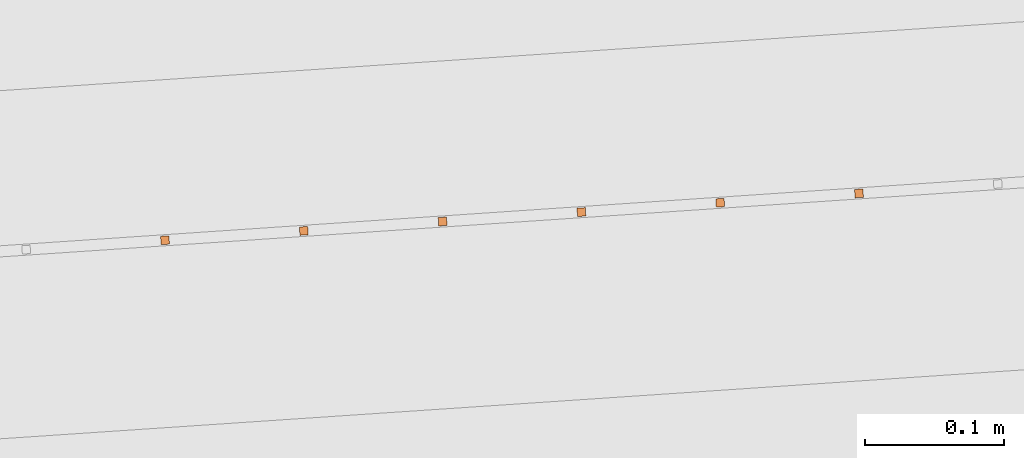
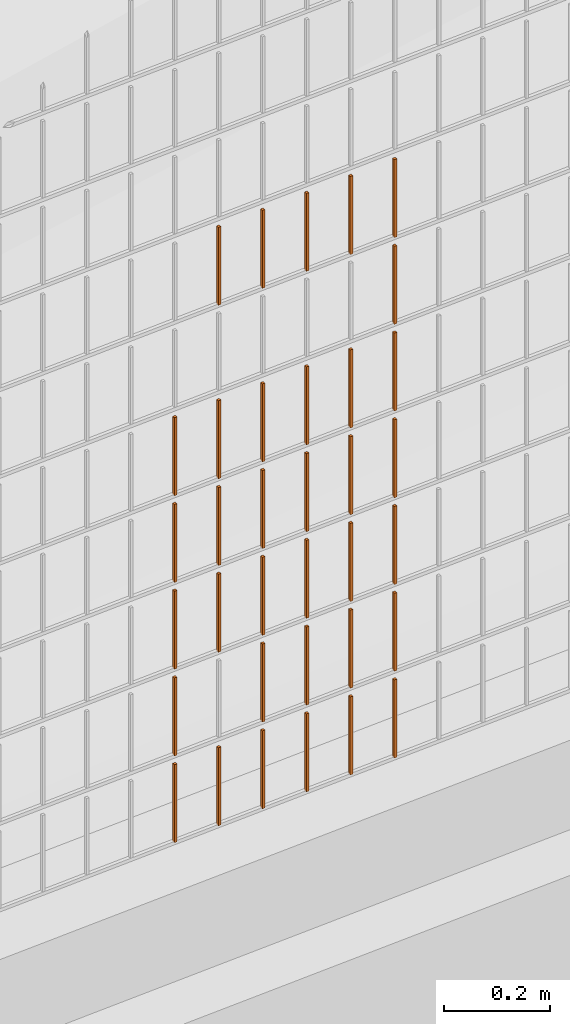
# One storey, part 106 of 1809: 35 proxies, 1 element without a shape of its own.
"""IFC2X3 building model written with IfcOpenShell, lengths in millimetres."""

from ifc_helpers import new_model, entity, si_unit, converted_unit, derived_unit, money_unit, direction, frame, origin_with_axes, place, context, subcontext, project, spatial, faceted_brep, source, transform, mapped, material, type_object, element, aggregate, save


model = new_model("IFC2X3")

# Units and contexts
model_context = context("Model", 3, precision=0.01, world=origin_with_axes(), true_north=direction((0.0, 1.0)))
body_context = subcontext(model_context, "Body", "Model", "MODEL_VIEW")
ifc_project = project(units=[si_unit("LENGTHUNIT", "METRE", prefix="MILLI"), si_unit("AREAUNIT", "SQUARE_METRE"), si_unit("VOLUMEUNIT", "CUBIC_METRE"), converted_unit("PLANEANGLEUNIT", "DEGREE", entity("IfcPlaneAngleMeasure", 0.0174532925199), si_unit("PLANEANGLEUNIT", "RADIAN"), dimensions=[0, 0, 0, 0, 0, 0, 0]), si_unit("SOLIDANGLEUNIT", "STERADIAN"), money_unit("EUR"), converted_unit("TIMEUNIT", "Year", entity("IfcTimeMeasure", 31556926.0), si_unit("TIMEUNIT", "SECOND"), dimensions=[0, 0, 1, 0, 0, 0, 0]), si_unit("MASSUNIT", "GRAM", prefix="KILO"), si_unit("THERMODYNAMICTEMPERATUREUNIT", "DEGREE_CELSIUS"), si_unit("LUMINOUSINTENSITYUNIT", "LUMEN"), si_unit("ENERGYUNIT", "JOULE", prefix="MEGA"), derived_unit("THERMALCONDUCTANCEUNIT", [(si_unit("POWERUNIT", "WATT"), 1), (si_unit("LENGTHUNIT", "METRE"), -1), (si_unit("THERMODYNAMICTEMPERATUREUNIT", "KELVIN"), -1)]), derived_unit("SPECIFICHEATCAPACITYUNIT", [(si_unit("ENERGYUNIT", "JOULE"), 1), (si_unit("MASSUNIT", "GRAM", prefix="KILO"), -1), (si_unit("THERMODYNAMICTEMPERATUREUNIT", "KELVIN"), -1)]), derived_unit("MASSDENSITYUNIT", [(si_unit("MASSUNIT", "GRAM", prefix="KILO"), 1), (si_unit("VOLUMEUNIT", "CUBIC_METRE"), -1)])], contexts=[model_context])

# Site, building, storey
site_placement = place(None, origin_with_axes())
site = spatial("IfcSite", under=ifc_project, at=site_placement, Name="Politse- ja Piirivalveameti ning Päästeameti ühishoone", CompositionType="ELEMENT")
building_placement = place(site_placement, origin_with_axes())
building = spatial("IfcBuilding", under=site, at=building_placement, Name="Politse- ja Piirivalveameti ning Päästeameti ühishoone", CompositionType="ELEMENT")
storey_placement = place(building_placement, origin_with_axes())
storey = spatial("IfcBuildingStorey", under=building, at=storey_placement, Name="Esimene korrus", CompositionType="ELEMENT", Elevation=0.0)

# Proxies
building_element_proxy_type_1 = type_object("IfcBuildingElementProxyType", Name="Railing Type", PredefinedType="NOTDEFINED")
proxy_1_placement = place(storey_placement, frame((89252.001212, -29183.4766571, 203.661247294), z_axis=(0.0, 0.0, 1.0), x_axis=(1.0, 0.0, 0.0)))
proxy_1 = element("IfcBuildingElementProxy", 1, at=proxy_1_placement, inside=storey, type_object=building_element_proxy_type_1, Name="PIIRDEAED")
ifc_material = material(Name="ET-03_Raud")
building_element_proxy_type_2 = type_object("IfcBuildingElementProxyType", Name="IfcBuildingElementProxy", PredefinedType="NOTDEFINED")
shared_shape_1 = source(origin_with_axes(), body_context, "Body", "Brep", [
    faceted_brep([(3.0, 3.0, -0.000752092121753), (-3.0, 3.0, -0.000752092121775), (-3.0, 3.0, 179.99926046), (3.0, 3.0, 179.99926046), (3.0, -3.0, 0.000752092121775), (-3.0, -3.0, 0.000752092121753), (-3.0, -3.0, 180.000764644), (3.0, -3.0, 180.000764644)], [[[0, 1, 2, 3]], [[0, 4, 5, 1]], [[1, 5, 6, 2]], [[3, 2, 6, 7]], [[4, 0, 3, 7]], [[5, 4, 7, 6]]]),
])
proxy_2_placement = place(proxy_1_placement, frame((-93912.6937901, -23641.2228134, 3.63707202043), z_axis=(0.0, 0.0, 1.0), x_axis=(1.0, 0.0, 0.0)))
proxy_2 = element("IfcBuildingElementProxy", 2, at=proxy_2_placement, type_object=building_element_proxy_type_2, material=ifc_material, Name="BALUSTER - 001", context=body_context, shape_type="MappedRepresentation", body=[
    mapped(shared_shape_1, transform((0.0, 0.0, 0.0), x_axis=(-0.0673926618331, 0.997726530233, 0.0), y_axis=(-0.997726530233, -0.0673926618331, 0.0), z_axis=(0.0, 0.0, 1.0))),
])
proxy_3_placement = place(proxy_1_placement, frame((-93912.6937901, -23641.2228134, 203.63707202), z_axis=(0.0, 0.0, 1.0), x_axis=(1.0, 0.0, 0.0)))
proxy_3 = element("IfcBuildingElementProxy", 3, at=proxy_3_placement, type_object=building_element_proxy_type_2, material=ifc_material, Name="BALUSTER - 001", context=body_context, shape_type="MappedRepresentation", body=[
    mapped(shared_shape_1, transform((0.0, 0.0, 0.0), x_axis=(-0.0673926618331, 0.997726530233, 0.0), y_axis=(-0.997726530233, -0.0673926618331, 0.0), z_axis=(0.0, 0.0, 1.0))),
])
shared_shape_2 = source(origin_with_axes(), body_context, "Body", "Brep", [
    faceted_brep([(3.0, 3.0, -0.000752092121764), (-3.0, 3.0, -0.000752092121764), (-3.0, 3.0, 179.99926046), (3.0, 3.0, 179.99926046), (3.0, -3.0, 0.000752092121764), (-3.0, -3.0, 0.000752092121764), (-3.0, -3.0, 180.000764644), (3.0, -3.0, 180.000764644)], [[[0, 1, 2, 3]], [[0, 4, 5, 1]], [[1, 5, 6, 2]], [[3, 2, 6, 7]], [[4, 0, 3, 7]], [[5, 4, 7, 6]]]),
])
proxy_4_placement = place(proxy_1_placement, frame((-94112.2390962, -23654.7013458, 3.58693254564), z_axis=(0.0, 0.0, 1.0), x_axis=(1.0, 0.0, 0.0)))
proxy_4 = element("IfcBuildingElementProxy", 4, at=proxy_4_placement, type_object=building_element_proxy_type_2, material=ifc_material, Name="BALUSTER - 001", context=body_context, shape_type="MappedRepresentation", body=[
    mapped(shared_shape_2, transform((0.0, 0.0, 0.0), x_axis=(-0.0673926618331, 0.997726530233, 0.0), y_axis=(-0.997726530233, -0.0673926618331, 0.0), z_axis=(0.0, 0.0, 1.0))),
])
shared_shape_3 = source(origin_with_axes(), body_context, "Body", "Brep", [
    faceted_brep([(3.0, 3.0, -0.000752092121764), (-3.0, 3.0, -0.000752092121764), (-3.0, 3.0, 179.99926046), (3.0, 3.0, 179.99926046), (3.0, -3.0, 0.000752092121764), (-3.0, -3.0, 0.000752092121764), (-3.0, -3.0, 180.000764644), (3.0, -3.0, 180.000764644)], [[[0, 1, 2, 3]], [[0, 4, 5, 1]], [[1, 5, 6, 2]], [[3, 2, 6, 7]], [[4, 0, 3, 7]], [[5, 4, 7, 6]]]),
])
proxy_5_placement = place(proxy_1_placement, frame((-94012.4664431, -23647.9620796, 3.61200228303), z_axis=(0.0, 0.0, 1.0), x_axis=(1.0, 0.0, 0.0)))
proxy_5 = element("IfcBuildingElementProxy", 5, at=proxy_5_placement, type_object=building_element_proxy_type_2, material=ifc_material, Name="BALUSTER - 001", context=body_context, shape_type="MappedRepresentation", body=[
    mapped(shared_shape_3, transform((0.0, 0.0, 0.0), x_axis=(-0.0673926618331, 0.997726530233, 0.0), y_axis=(-0.997726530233, -0.0673926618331, 0.0), z_axis=(0.0, 0.0, 1.0))),
])
shared_shape_4 = source(origin_with_axes(), body_context, "Body", "Brep", [
    faceted_brep([(3.0, 3.0, -0.000752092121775), (-3.0, 3.0, -0.000752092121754), (-3.0, 3.0, 179.99926046), (3.0, 3.0, 179.99926046), (3.0, -3.0, 0.000752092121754), (-3.0, -3.0, 0.000752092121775), (-3.0, -3.0, 180.000764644), (3.0, -3.0, 180.000764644)], [[[0, 1, 2, 3]], [[0, 4, 5, 1]], [[1, 5, 6, 2]], [[3, 2, 6, 7]], [[4, 0, 3, 7]], [[5, 4, 7, 6]]]),
])
proxy_6_placement = place(proxy_1_placement, frame((-93713.1484841, -23627.744281, 403.687211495), z_axis=(0.0, 0.0, 1.0), x_axis=(1.0, 0.0, 0.0)))
proxy_6 = element("IfcBuildingElementProxy", 6, at=proxy_6_placement, type_object=building_element_proxy_type_2, material=ifc_material, Name="BALUSTER - 001", context=body_context, shape_type="MappedRepresentation", body=[
    mapped(shared_shape_4, transform((0.0, 0.0, 0.0), x_axis=(-0.0673926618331, 0.997726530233, 0.0), y_axis=(-0.997726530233, -0.0673926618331, 0.0), z_axis=(0.0, 0.0, 1.0))),
])
proxy_7_placement = place(proxy_1_placement, frame((-93713.1484841, -23627.744281, 603.687211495), z_axis=(0.0, 0.0, 1.0), x_axis=(1.0, 0.0, 0.0)))
proxy_7 = element("IfcBuildingElementProxy", 7, at=proxy_7_placement, type_object=building_element_proxy_type_2, material=ifc_material, Name="BALUSTER - 001", context=body_context, shape_type="MappedRepresentation", body=[
    mapped(shared_shape_4, transform((0.0, 0.0, 0.0), x_axis=(-0.0673926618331, 0.997726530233, 0.0), y_axis=(-0.997726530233, -0.0673926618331, 0.0), z_axis=(0.0, 0.0, 1.0))),
])
shared_shape_5 = source(origin_with_axes(), body_context, "Body", "Brep", [
    faceted_brep([(3.0, 3.0, -0.000752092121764), (-3.0, 3.0, -0.000752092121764), (-3.0, 3.0, 179.99926046), (3.0, 3.0, 179.99926046), (3.0, -3.0, 0.000752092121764), (-3.0, -3.0, 0.000752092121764), (-3.0, -3.0, 180.000764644), (3.0, -3.0, 180.000764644)], [[[0, 1, 2, 3]], [[0, 4, 5, 1]], [[1, 5, 6, 2]], [[3, 2, 6, 7]], [[4, 0, 3, 7]], [[5, 4, 7, 6]]]),
])
proxy_8_placement = place(proxy_1_placement, frame((-94112.2390962, -23654.7013458, 203.586932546), z_axis=(0.0, 0.0, 1.0), x_axis=(1.0, 0.0, 0.0)))
proxy_8 = element("IfcBuildingElementProxy", 8, at=proxy_8_placement, type_object=building_element_proxy_type_2, material=ifc_material, Name="BALUSTER - 001", context=body_context, shape_type="MappedRepresentation", body=[
    mapped(shared_shape_5, transform((0.0, 0.0, 0.0), x_axis=(-0.0673926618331, 0.997726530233, 0.0), y_axis=(-0.997726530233, -0.0673926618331, 0.0), z_axis=(0.0, 0.0, 1.0))),
])
proxy_9_placement = place(proxy_1_placement, frame((-94012.4664431, -23647.9620796, 403.612002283), z_axis=(0.0, 0.0, 1.0), x_axis=(1.0, 0.0, 0.0)))
proxy_9 = element("IfcBuildingElementProxy", 9, at=proxy_9_placement, type_object=building_element_proxy_type_2, material=ifc_material, Name="BALUSTER - 001", context=body_context, shape_type="MappedRepresentation", body=[
    mapped(shared_shape_5, transform((0.0, 0.0, 0.0), x_axis=(-0.0673926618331, 0.997726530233, 0.0), y_axis=(-0.997726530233, -0.0673926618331, 0.0), z_axis=(0.0, 0.0, 1.0))),
])
proxy_10_placement = place(proxy_1_placement, frame((-94112.2390962, -23654.7013458, 403.586932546), z_axis=(0.0, 0.0, 1.0), x_axis=(1.0, 0.0, 0.0)))
proxy_10 = element("IfcBuildingElementProxy", 10, at=proxy_10_placement, type_object=building_element_proxy_type_2, material=ifc_material, Name="BALUSTER - 001", context=body_context, shape_type="MappedRepresentation", body=[
    mapped(shared_shape_5, transform((0.0, 0.0, 0.0), x_axis=(-0.0673926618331, 0.997726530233, 0.0), y_axis=(-0.997726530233, -0.0673926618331, 0.0), z_axis=(0.0, 0.0, 1.0))),
])
proxy_11_placement = place(proxy_1_placement, frame((-94012.4664431, -23647.9620796, 603.612002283), z_axis=(0.0, 0.0, 1.0), x_axis=(1.0, 0.0, 0.0)))
proxy_11 = element("IfcBuildingElementProxy", 11, at=proxy_11_placement, type_object=building_element_proxy_type_2, material=ifc_material, Name="BALUSTER - 001", context=body_context, shape_type="MappedRepresentation", body=[
    mapped(shared_shape_5, transform((0.0, 0.0, 0.0), x_axis=(-0.0673926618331, 0.997726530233, 0.0), y_axis=(-0.997726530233, -0.0673926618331, 0.0), z_axis=(0.0, 0.0, 1.0))),
])
proxy_12_placement = place(proxy_1_placement, frame((-94112.2390962, -23654.7013458, 603.586932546), z_axis=(0.0, 0.0, 1.0), x_axis=(1.0, 0.0, 0.0)))
proxy_12 = element("IfcBuildingElementProxy", 12, at=proxy_12_placement, type_object=building_element_proxy_type_2, material=ifc_material, Name="BALUSTER - 001", context=body_context, shape_type="MappedRepresentation", body=[
    mapped(shared_shape_5, transform((0.0, 0.0, 0.0), x_axis=(-0.0673926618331, 0.997726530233, 0.0), y_axis=(-0.997726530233, -0.0673926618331, 0.0), z_axis=(0.0, 0.0, 1.0))),
])
shared_shape_6 = source(origin_with_axes(), body_context, "Body", "Brep", [
    faceted_brep([(3.0, 3.0, -0.000752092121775), (-3.0, 3.0, -0.000752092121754), (-3.0, 3.0, 179.99926046), (3.0, 3.0, 179.99926046), (3.0, -3.0, 0.000752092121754), (-3.0, -3.0, 0.000752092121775), (-3.0, -3.0, 180.000764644), (3.0, -3.0, 180.000764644)], [[[0, 1, 2, 3]], [[0, 4, 5, 1]], [[1, 5, 6, 2]], [[3, 2, 6, 7]], [[4, 0, 3, 7]], [[5, 4, 7, 6]]]),
])
proxy_13_placement = place(proxy_1_placement, frame((-93713.1484841, -23627.744281, 203.687211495), z_axis=(0.0, 0.0, 1.0), x_axis=(1.0, 0.0, 0.0)))
proxy_13 = element("IfcBuildingElementProxy", 13, at=proxy_13_placement, type_object=building_element_proxy_type_2, material=ifc_material, Name="BALUSTER - 001", context=body_context, shape_type="MappedRepresentation", body=[
    mapped(shared_shape_6, transform((0.0, 0.0, 0.0), x_axis=(-0.0673926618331, 0.997726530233, 0.0), y_axis=(-0.997726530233, -0.0673926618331, 0.0), z_axis=(0.0, 0.0, 1.0))),
])
shared_shape_7 = source(origin_with_axes(), body_context, "Body", "Brep", [
    faceted_brep([(3.0, 3.0, -0.000752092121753), (-3.0, 3.0, -0.000752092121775), (-3.0, 3.0, 179.99926046), (3.0, 3.0, 179.99926046), (3.0, -3.0, 0.000752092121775), (-3.0, -3.0, 0.000752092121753), (-3.0, -3.0, 180.000764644), (3.0, -3.0, 180.000764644)], [[[0, 1, 2, 3]], [[0, 4, 5, 1]], [[1, 5, 6, 2]], [[3, 2, 6, 7]], [[4, 0, 3, 7]], [[5, 4, 7, 6]]]),
])
proxy_14_placement = place(proxy_1_placement, frame((-93912.6937901, -23641.2228134, 603.63707202), z_axis=(0.0, 0.0, 1.0), x_axis=(1.0, 0.0, 0.0)))
proxy_14 = element("IfcBuildingElementProxy", 14, at=proxy_14_placement, type_object=building_element_proxy_type_2, material=ifc_material, Name="BALUSTER - 001", context=body_context, shape_type="MappedRepresentation", body=[
    mapped(shared_shape_7, transform((0.0, 0.0, 0.0), x_axis=(-0.0673926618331, 0.997726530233, 0.0), y_axis=(-0.997726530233, -0.0673926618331, 0.0), z_axis=(0.0, 0.0, 1.0))),
])
shared_shape_8 = source(origin_with_axes(), body_context, "Body", "Brep", [
    faceted_brep([(3.0, 3.0, -0.000752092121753), (-3.0, 3.0, -0.000752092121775), (-3.0, 3.0, 179.99926046), (3.0, 3.0, 179.99926046), (3.0, -3.0, 0.000752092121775), (-3.0, -3.0, 0.000752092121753), (-3.0, -3.0, 180.000764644), (3.0, -3.0, 180.000764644)], [[[0, 1, 2, 3]], [[0, 4, 5, 1]], [[1, 5, 6, 2]], [[3, 2, 6, 7]], [[4, 0, 3, 7]], [[5, 4, 7, 6]]]),
])
proxy_15_placement = place(proxy_1_placement, frame((-93812.9211371, -23634.4835472, 803.662141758), z_axis=(0.0, 0.0, 1.0), x_axis=(1.0, 0.0, 0.0)))
proxy_15 = element("IfcBuildingElementProxy", 15, at=proxy_15_placement, type_object=building_element_proxy_type_2, material=ifc_material, Name="BALUSTER - 001", context=body_context, shape_type="MappedRepresentation", body=[
    mapped(shared_shape_8, transform((0.0, 0.0, 0.0), x_axis=(-0.0673926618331, 0.997726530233, 0.0), y_axis=(-0.997726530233, -0.0673926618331, 0.0), z_axis=(0.0, 0.0, 1.0))),
])
shared_shape_9 = source(origin_with_axes(), body_context, "Body", "Brep", [
    faceted_brep([(3.0, 3.0, -0.000752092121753), (-3.0, 3.0, -0.000752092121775), (-3.0, 3.0, 179.99926046), (3.0, 3.0, 179.99926046), (3.0, -3.0, 0.000752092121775), (-3.0, -3.0, 0.000752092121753), (-3.0, -3.0, 180.000764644), (3.0, -3.0, 180.000764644)], [[[0, 1, 2, 3]], [[0, 4, 5, 1]], [[1, 5, 6, 2]], [[3, 2, 6, 7]], [[4, 0, 3, 7]], [[5, 4, 7, 6]]]),
])
proxy_16_placement = place(proxy_1_placement, frame((-93812.9211371, -23634.4835472, 1203.66214176), z_axis=(0.0, 0.0, 1.0), x_axis=(1.0, 0.0, 0.0)))
proxy_16 = element("IfcBuildingElementProxy", 16, at=proxy_16_placement, type_object=building_element_proxy_type_2, material=ifc_material, Name="BALUSTER - 001", context=body_context, shape_type="MappedRepresentation", body=[
    mapped(shared_shape_9, transform((0.0, 0.0, 0.0), x_axis=(-0.0673926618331, 0.997726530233, 0.0), y_axis=(-0.997726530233, -0.0673926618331, 0.0), z_axis=(0.0, 0.0, 1.0))),
])
shared_shape_10 = source(origin_with_axes(), body_context, "Body", "Brep", [
    faceted_brep([(3.0, 3.0, -0.000752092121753), (-3.0, 3.0, -0.000752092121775), (-3.0, 3.0, 179.99926046), (3.0, 3.0, 179.99926046), (3.0, -3.0, 0.000752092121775), (-3.0, -3.0, 0.000752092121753), (-3.0, -3.0, 180.000764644), (3.0, -3.0, 180.000764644)], [[[0, 1, 2, 3]], [[0, 4, 5, 1]], [[1, 5, 6, 2]], [[3, 2, 6, 7]], [[4, 0, 3, 7]], [[5, 4, 7, 6]]]),
])
proxy_17_placement = place(proxy_1_placement, frame((-93812.9211371, -23634.4835472, 3.66214175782), z_axis=(0.0, 0.0, 1.0), x_axis=(1.0, 0.0, 0.0)))
proxy_17 = element("IfcBuildingElementProxy", 17, at=proxy_17_placement, type_object=building_element_proxy_type_2, material=ifc_material, Name="BALUSTER - 001", context=body_context, shape_type="MappedRepresentation", body=[
    mapped(shared_shape_10, transform((0.0, 0.0, 0.0), x_axis=(-0.0673926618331, 0.997726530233, 0.0), y_axis=(-0.997726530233, -0.0673926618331, 0.0), z_axis=(0.0, 0.0, 1.0))),
])
shared_shape_11 = source(origin_with_axes(), body_context, "Body", "Brep", [
    faceted_brep([(3.0, 3.0, -0.000752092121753), (-3.0, 3.0, -0.000752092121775), (-3.0, 3.0, 179.99926046), (3.0, 3.0, 179.99926046), (3.0, -3.0, 0.000752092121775), (-3.0, -3.0, 0.000752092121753), (-3.0, -3.0, 180.000764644), (3.0, -3.0, 180.000764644)], [[[0, 1, 2, 3]], [[0, 4, 5, 1]], [[1, 5, 6, 2]], [[3, 2, 6, 7]], [[4, 0, 3, 7]], [[5, 4, 7, 6]]]),
])
proxy_18_placement = place(proxy_1_placement, frame((-93812.9211371, -23634.4835472, 203.662141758), z_axis=(0.0, 0.0, 1.0), x_axis=(1.0, 0.0, 0.0)))
proxy_18 = element("IfcBuildingElementProxy", 18, at=proxy_18_placement, type_object=building_element_proxy_type_2, material=ifc_material, Name="BALUSTER - 001", context=body_context, shape_type="MappedRepresentation", body=[
    mapped(shared_shape_11, transform((0.0, 0.0, 0.0), x_axis=(-0.0673926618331, 0.997726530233, 0.0), y_axis=(-0.997726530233, -0.0673926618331, 0.0), z_axis=(0.0, 0.0, 1.0))),
])
shared_shape_12 = source(origin_with_axes(), body_context, "Body", "Brep", [
    faceted_brep([(3.0, 3.0, -0.000752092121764), (-3.0, 3.0, -0.000752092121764), (-3.0, 3.0, 179.99926046), (3.0, 3.0, 179.99926046), (3.0, -3.0, 0.000752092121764), (-3.0, -3.0, 0.000752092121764), (-3.0, -3.0, 180.000764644), (3.0, -3.0, 180.000764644)], [[[0, 1, 2, 3]], [[0, 4, 5, 1]], [[1, 5, 6, 2]], [[3, 2, 6, 7]], [[4, 0, 3, 7]], [[5, 4, 7, 6]]]),
])
proxy_19_placement = place(proxy_1_placement, frame((-93613.3758311, -23621.0050149, 3.7122812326), z_axis=(0.0, 0.0, 1.0), x_axis=(1.0, 0.0, 0.0)))
proxy_19 = element("IfcBuildingElementProxy", 19, at=proxy_19_placement, type_object=building_element_proxy_type_2, material=ifc_material, Name="BALUSTER - 001", context=body_context, shape_type="MappedRepresentation", body=[
    mapped(shared_shape_12, transform((0.0, 0.0, 0.0), x_axis=(-0.0673926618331, 0.997726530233, 0.0), y_axis=(-0.997726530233, -0.0673926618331, 0.0), z_axis=(0.0, 0.0, 1.0))),
])
shared_shape_13 = source(origin_with_axes(), body_context, "Body", "Brep", [
    faceted_brep([(3.0, 3.0, -0.000752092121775), (-3.0, 3.0, -0.000752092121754), (-3.0, 3.0, 179.99926046), (3.0, 3.0, 179.99926046), (3.0, -3.0, 0.000752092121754), (-3.0, -3.0, 0.000752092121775), (-3.0, -3.0, 180.000764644), (3.0, -3.0, 180.000764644)], [[[0, 1, 2, 3]], [[0, 4, 5, 1]], [[1, 5, 6, 2]], [[3, 2, 6, 7]], [[4, 0, 3, 7]], [[5, 4, 7, 6]]]),
])
proxy_20_placement = place(proxy_1_placement, frame((-93713.1484841, -23627.744281, 803.687211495), z_axis=(0.0, 0.0, 1.0), x_axis=(1.0, 0.0, 0.0)))
proxy_20 = element("IfcBuildingElementProxy", 20, at=proxy_20_placement, type_object=building_element_proxy_type_2, material=ifc_material, Name="BALUSTER - 001", context=body_context, shape_type="MappedRepresentation", body=[
    mapped(shared_shape_13, transform((0.0, 0.0, 0.0), x_axis=(-0.0673926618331, 0.997726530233, 0.0), y_axis=(-0.997726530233, -0.0673926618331, 0.0), z_axis=(0.0, 0.0, 1.0))),
])
proxy_21_placement = place(proxy_1_placement, frame((-93713.1484841, -23627.744281, 1203.6872115), z_axis=(0.0, 0.0, 1.0), x_axis=(1.0, 0.0, 0.0)))
proxy_21 = element("IfcBuildingElementProxy", 21, at=proxy_21_placement, type_object=building_element_proxy_type_2, material=ifc_material, Name="BALUSTER - 001", context=body_context, shape_type="MappedRepresentation", body=[
    mapped(shared_shape_13, transform((0.0, 0.0, 0.0), x_axis=(-0.0673926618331, 0.997726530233, 0.0), y_axis=(-0.997726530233, -0.0673926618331, 0.0), z_axis=(0.0, 0.0, 1.0))),
])
shared_shape_14 = source(origin_with_axes(), body_context, "Body", "Brep", [
    faceted_brep([(3.0, 3.0, -0.000752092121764), (-3.0, 3.0, -0.000752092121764), (-3.0, 3.0, 179.99926046), (3.0, 3.0, 179.99926046), (3.0, -3.0, 0.000752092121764), (-3.0, -3.0, 0.000752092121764), (-3.0, -3.0, 180.000764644), (3.0, -3.0, 180.000764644)], [[[0, 1, 2, 3]], [[0, 4, 5, 1]], [[1, 5, 6, 2]], [[3, 2, 6, 7]], [[4, 0, 3, 7]], [[5, 4, 7, 6]]]),
])
proxy_22_placement = place(proxy_1_placement, frame((-93613.3758311, -23621.0050149, 203.712281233), z_axis=(0.0, 0.0, 1.0), x_axis=(1.0, 0.0, 0.0)))
proxy_22 = element("IfcBuildingElementProxy", 22, at=proxy_22_placement, type_object=building_element_proxy_type_2, material=ifc_material, Name="BALUSTER - 001", context=body_context, shape_type="MappedRepresentation", body=[
    mapped(shared_shape_14, transform((0.0, 0.0, 0.0), x_axis=(-0.0673926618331, 0.997726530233, 0.0), y_axis=(-0.997726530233, -0.0673926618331, 0.0), z_axis=(0.0, 0.0, 1.0))),
])
proxy_23_placement = place(proxy_1_placement, frame((-93613.3758311, -23621.0050149, 403.712281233), z_axis=(0.0, 0.0, 1.0), x_axis=(1.0, 0.0, 0.0)))
proxy_23 = element("IfcBuildingElementProxy", 23, at=proxy_23_placement, type_object=building_element_proxy_type_2, material=ifc_material, Name="BALUSTER - 001", context=body_context, shape_type="MappedRepresentation", body=[
    mapped(shared_shape_14, transform((0.0, 0.0, 0.0), x_axis=(-0.0673926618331, 0.997726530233, 0.0), y_axis=(-0.997726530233, -0.0673926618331, 0.0), z_axis=(0.0, 0.0, 1.0))),
])
shared_shape_15 = source(origin_with_axes(), body_context, "Body", "Brep", [
    faceted_brep([(3.0, 3.0, -0.000752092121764), (-3.0, 3.0, -0.000752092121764), (-3.0, 3.0, 179.99926046), (3.0, 3.0, 179.99926046), (3.0, -3.0, 0.000752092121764), (-3.0, -3.0, 0.000752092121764), (-3.0, -3.0, 180.000764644), (3.0, -3.0, 180.000764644)], [[[0, 1, 2, 3]], [[0, 4, 5, 1]], [[1, 5, 6, 2]], [[3, 2, 6, 7]], [[4, 0, 3, 7]], [[5, 4, 7, 6]]]),
])
proxy_24_placement = place(proxy_1_placement, frame((-93613.3758311, -23621.0050149, 603.712281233), z_axis=(0.0, 0.0, 1.0), x_axis=(1.0, 0.0, 0.0)))
proxy_24 = element("IfcBuildingElementProxy", 24, at=proxy_24_placement, type_object=building_element_proxy_type_2, material=ifc_material, Name="BALUSTER - 001", context=body_context, shape_type="MappedRepresentation", body=[
    mapped(shared_shape_15, transform((0.0, 0.0, 0.0), x_axis=(-0.0673926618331, 0.997726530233, 0.0), y_axis=(-0.997726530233, -0.0673926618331, 0.0), z_axis=(0.0, 0.0, 1.0))),
])
shared_shape_16 = source(origin_with_axes(), body_context, "Body", "Brep", [
    faceted_brep([(3.0, 3.0, -0.000752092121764), (-3.0, 3.0, -0.000752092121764), (-3.0, 3.0, 179.99926046), (3.0, 3.0, 179.99926046), (3.0, -3.0, 0.000752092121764), (-3.0, -3.0, 0.000752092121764), (-3.0, -3.0, 180.000764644), (3.0, -3.0, 180.000764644)], [[[0, 1, 2, 3]], [[0, 4, 5, 1]], [[1, 5, 6, 2]], [[3, 2, 6, 7]], [[4, 0, 3, 7]], [[5, 4, 7, 6]]]),
])
proxy_25_placement = place(proxy_1_placement, frame((-93613.3758311, -23621.0050149, 803.712281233), z_axis=(0.0, 0.0, 1.0), x_axis=(1.0, 0.0, 0.0)))
proxy_25 = element("IfcBuildingElementProxy", 25, at=proxy_25_placement, type_object=building_element_proxy_type_2, material=ifc_material, Name="BALUSTER - 001", context=body_context, shape_type="MappedRepresentation", body=[
    mapped(shared_shape_16, transform((0.0, 0.0, 0.0), x_axis=(-0.0673926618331, 0.997726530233, 0.0), y_axis=(-0.997726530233, -0.0673926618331, 0.0), z_axis=(0.0, 0.0, 1.0))),
])
shared_shape_17 = source(origin_with_axes(), body_context, "Body", "Brep", [
    faceted_brep([(3.0, 3.0, -0.000752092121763), (-3.0, 3.0, -0.000752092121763), (-3.0, 3.0, 179.99926046), (3.0, 3.0, 179.99926046), (3.0, -3.0, 0.000752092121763), (-3.0, -3.0, 0.000752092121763), (-3.0, -3.0, 180.000764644), (3.0, -3.0, 180.000764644)], [[[0, 1, 2, 3]], [[0, 4, 5, 1]], [[1, 5, 6, 2]], [[3, 2, 6, 7]], [[4, 0, 3, 7]], [[5, 4, 7, 6]]]),
])
proxy_26_placement = place(proxy_1_placement, frame((-93613.3758311, -23621.0050149, 1203.71228123), z_axis=(0.0, 0.0, 1.0), x_axis=(1.0, 0.0, 0.0)))
proxy_26 = element("IfcBuildingElementProxy", 26, at=proxy_26_placement, type_object=building_element_proxy_type_2, material=ifc_material, Name="BALUSTER - 001", context=body_context, shape_type="MappedRepresentation", body=[
    mapped(shared_shape_17, transform((0.0, 0.0, 0.0), x_axis=(-0.0673926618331, 0.997726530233, 0.0), y_axis=(-0.997726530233, -0.0673926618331, 0.0), z_axis=(0.0, 0.0, 1.0))),
])
shared_shape_18 = source(origin_with_axes(), body_context, "Body", "Brep", [
    faceted_brep([(3.0, 3.0, -0.000752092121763), (-3.0, 3.0, -0.000752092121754), (-3.00000000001, 3.0, 179.99926046), (2.99999999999, 3.0, 179.99926046), (3.0, -3.0, 0.000752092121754), (-3.0, -3.0, 0.000752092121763), (-3.00000000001, -3.0, 180.000764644), (2.99999999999, -3.0, 180.000764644)], [[[0, 1, 2, 3]], [[0, 4, 5, 1]], [[1, 5, 6, 2]], [[3, 2, 6, 7]], [[4, 0, 3, 7]], [[5, 4, 7, 6]]]),
])
proxy_27_placement = place(proxy_1_placement, frame((-93613.3758311, -23621.0050149, 1003.71228123), z_axis=(0.0, 0.0, 1.0), x_axis=(1.0, 0.0, 0.0)))
proxy_27 = element("IfcBuildingElementProxy", 27, at=proxy_27_placement, type_object=building_element_proxy_type_2, material=ifc_material, Name="BALUSTER - 001", context=body_context, shape_type="MappedRepresentation", body=[
    mapped(shared_shape_18, transform((0.0, 0.0, 0.0), x_axis=(-0.0673926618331, 0.997726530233, 0.0), y_axis=(-0.997726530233, -0.0673926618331, 0.0), z_axis=(0.0, 0.0, 1.0))),
])
shared_shape_19 = source(origin_with_axes(), body_context, "Body", "Brep", [
    faceted_brep([(3.0, 3.0, -0.000752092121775), (-3.0, 3.0, -0.000752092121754), (-3.0, 3.0, 179.99926046), (3.0, 3.0, 179.99926046), (3.0, -3.0, 0.000752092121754), (-3.0, -3.0, 0.000752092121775), (-3.0, -3.0, 180.000764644), (3.0, -3.0, 180.000764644)], [[[0, 1, 2, 3]], [[0, 4, 5, 1]], [[1, 5, 6, 2]], [[3, 2, 6, 7]], [[4, 0, 3, 7]], [[5, 4, 7, 6]]]),
])
proxy_28_placement = place(proxy_1_placement, frame((-93713.1484841, -23627.744281, 3.68721149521), z_axis=(0.0, 0.0, 1.0), x_axis=(1.0, 0.0, 0.0)))
proxy_28 = element("IfcBuildingElementProxy", 28, at=proxy_28_placement, type_object=building_element_proxy_type_2, material=ifc_material, Name="BALUSTER - 001", context=body_context, shape_type="MappedRepresentation", body=[
    mapped(shared_shape_19, transform((0.0, 0.0, 0.0), x_axis=(-0.0673926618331, 0.997726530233, 0.0), y_axis=(-0.997726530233, -0.0673926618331, 0.0), z_axis=(0.0, 0.0, 1.0))),
])
shared_shape_20 = source(origin_with_axes(), body_context, "Body", "Brep", [
    faceted_brep([(3.0, 3.0, -0.000752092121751), (-3.0, 3.0, -0.000752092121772), (-3.0, 3.0, 179.99926046), (3.0, 3.0, 179.99926046), (3.0, -3.0, 0.000752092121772), (-3.0, -3.0, 0.000752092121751), (-3.0, -3.0, 180.000764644), (3.0, -3.0, 180.000764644)], [[[0, 1, 2, 3]], [[0, 4, 5, 1]], [[1, 5, 6, 2]], [[3, 2, 6, 7]], [[4, 0, 3, 7]], [[5, 4, 7, 6]]]),
])
proxy_29_placement = place(proxy_1_placement, frame((-93812.9211371, -23634.4835472, 403.662141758), z_axis=(0.0, 0.0, 1.0), x_axis=(1.0, 0.0, 0.0)))
proxy_29 = element("IfcBuildingElementProxy", 29, at=proxy_29_placement, type_object=building_element_proxy_type_2, material=ifc_material, Name="BALUSTER - 001", context=body_context, shape_type="MappedRepresentation", body=[
    mapped(shared_shape_20, transform((0.0, 0.0, 0.0), x_axis=(-0.0673926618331, 0.997726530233, 0.0), y_axis=(-0.997726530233, -0.0673926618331, 0.0), z_axis=(0.0, 0.0, 1.0))),
])
proxy_30_placement = place(proxy_1_placement, frame((-93812.9211371, -23634.4835472, 603.662141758), z_axis=(0.0, 0.0, 1.0), x_axis=(1.0, 0.0, 0.0)))
proxy_30 = element("IfcBuildingElementProxy", 30, at=proxy_30_placement, type_object=building_element_proxy_type_2, material=ifc_material, Name="BALUSTER - 001", context=body_context, shape_type="MappedRepresentation", body=[
    mapped(shared_shape_20, transform((0.0, 0.0, 0.0), x_axis=(-0.0673926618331, 0.997726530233, 0.0), y_axis=(-0.997726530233, -0.0673926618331, 0.0), z_axis=(0.0, 0.0, 1.0))),
])
shared_shape_21 = source(origin_with_axes(), body_context, "Body", "Brep", [
    faceted_brep([(3.0, 3.0, -0.000752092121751), (-3.0, 3.0, -0.000752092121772), (-3.0, 3.0, 179.99926046), (3.0, 3.0, 179.99926046), (3.0, -3.0, 0.000752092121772), (-3.0, -3.0, 0.000752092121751), (-3.0, -3.0, 180.000764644), (3.0, -3.0, 180.000764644)], [[[0, 1, 2, 3]], [[0, 4, 5, 1]], [[1, 5, 6, 2]], [[3, 2, 6, 7]], [[4, 0, 3, 7]], [[5, 4, 7, 6]]]),
])
proxy_31_placement = place(proxy_1_placement, frame((-93912.6937901, -23641.2228134, 403.63707202), z_axis=(0.0, 0.0, 1.0), x_axis=(1.0, 0.0, 0.0)))
proxy_31 = element("IfcBuildingElementProxy", 31, at=proxy_31_placement, type_object=building_element_proxy_type_2, material=ifc_material, Name="BALUSTER - 001", context=body_context, shape_type="MappedRepresentation", body=[
    mapped(shared_shape_21, transform((0.0, 0.0, 0.0), x_axis=(-0.0673926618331, 0.997726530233, 0.0), y_axis=(-0.997726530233, -0.0673926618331, 0.0), z_axis=(0.0, 0.0, 1.0))),
])
shared_shape_22 = source(origin_with_axes(), body_context, "Body", "Brep", [
    faceted_brep([(3.0, 3.0, -0.000752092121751), (-3.0, 3.0, -0.000752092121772), (-3.0, 3.0, 179.99926046), (3.0, 3.0, 179.99926046), (3.0, -3.0, 0.000752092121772), (-3.0, -3.0, 0.000752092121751), (-3.0, -3.0, 180.000764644), (3.0, -3.0, 180.000764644)], [[[0, 1, 2, 3]], [[0, 4, 5, 1]], [[1, 5, 6, 2]], [[3, 2, 6, 7]], [[4, 0, 3, 7]], [[5, 4, 7, 6]]]),
])
proxy_32_placement = place(proxy_1_placement, frame((-93912.6937901, -23641.2228134, 803.63707202), z_axis=(0.0, 0.0, 1.0), x_axis=(1.0, 0.0, 0.0)))
proxy_32 = element("IfcBuildingElementProxy", 32, at=proxy_32_placement, type_object=building_element_proxy_type_2, material=ifc_material, Name="BALUSTER - 001", context=body_context, shape_type="MappedRepresentation", body=[
    mapped(shared_shape_22, transform((0.0, 0.0, 0.0), x_axis=(-0.0673926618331, 0.997726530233, 0.0), y_axis=(-0.997726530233, -0.0673926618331, 0.0), z_axis=(0.0, 0.0, 1.0))),
])
shared_shape_23 = source(origin_with_axes(), body_context, "Body", "Brep", [
    faceted_brep([(3.0, 3.0, -0.000752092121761), (-3.0, 3.0, -0.000752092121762), (-3.0, 3.0, 179.99926046), (3.0, 3.0, 179.99926046), (3.0, -3.0, 0.000752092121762), (-3.0, -3.0, 0.000752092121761), (-3.0, -3.0, 180.000764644), (3.0, -3.0, 180.000764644)], [[[0, 1, 2, 3]], [[0, 4, 5, 1]], [[1, 5, 6, 2]], [[3, 2, 6, 7]], [[4, 0, 3, 7]], [[5, 4, 7, 6]]]),
])
proxy_33_placement = place(proxy_1_placement, frame((-94012.4664431, -23647.9620796, 803.612002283), z_axis=(0.0, 0.0, 1.0), x_axis=(1.0, 0.0, 0.0)))
proxy_33 = element("IfcBuildingElementProxy", 33, at=proxy_33_placement, type_object=building_element_proxy_type_2, material=ifc_material, Name="BALUSTER - 001", context=body_context, shape_type="MappedRepresentation", body=[
    mapped(shared_shape_23, transform((0.0, 0.0, 0.0), x_axis=(-0.0673926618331, 0.997726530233, 0.0), y_axis=(-0.997726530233, -0.0673926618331, 0.0), z_axis=(0.0, 0.0, 1.0))),
])
proxy_34_placement = place(proxy_1_placement, frame((-94112.2390962, -23654.7013458, 803.586932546), z_axis=(0.0, 0.0, 1.0), x_axis=(1.0, 0.0, 0.0)))
proxy_34 = element("IfcBuildingElementProxy", 34, at=proxy_34_placement, type_object=building_element_proxy_type_2, material=ifc_material, Name="BALUSTER - 001", context=body_context, shape_type="MappedRepresentation", body=[
    mapped(shared_shape_23, transform((0.0, 0.0, 0.0), x_axis=(-0.0673926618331, 0.997726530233, 0.0), y_axis=(-0.997726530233, -0.0673926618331, 0.0), z_axis=(0.0, 0.0, 1.0))),
])
shared_shape_24 = source(origin_with_axes(), body_context, "Body", "Brep", [
    faceted_brep([(3.0, 3.0, -0.000752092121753), (-3.0, 3.0, -0.000752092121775), (-3.0, 3.0, 179.99926046), (3.0, 3.0, 179.99926046), (3.0, -3.0, 0.000752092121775), (-3.0, -3.0, 0.000752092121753), (-3.0, -3.0, 180.000764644), (3.0, -3.0, 180.000764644)], [[[0, 1, 2, 3]], [[0, 4, 5, 1]], [[1, 5, 6, 2]], [[3, 2, 6, 7]], [[4, 0, 3, 7]], [[5, 4, 7, 6]]]),
])
proxy_35_placement = place(proxy_1_placement, frame((-93912.6937901, -23641.2228134, 1203.63707202), z_axis=(0.0, 0.0, 1.0), x_axis=(1.0, 0.0, 0.0)))
proxy_35 = element("IfcBuildingElementProxy", 35, at=proxy_35_placement, type_object=building_element_proxy_type_2, material=ifc_material, Name="BALUSTER - 001", context=body_context, shape_type="MappedRepresentation", body=[
    mapped(shared_shape_24, transform((0.0, 0.0, 0.0), x_axis=(-0.0673926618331, 0.997726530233, 0.0), y_axis=(-0.997726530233, -0.0673926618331, 0.0), z_axis=(0.0, 0.0, 1.0))),
])
shared_shape_25 = source(origin_with_axes(), body_context, "Body", "Brep", [
    faceted_brep([(3.0, 3.0, -0.000752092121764), (-3.0, 3.0, -0.000752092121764), (-3.0, 3.0, 179.99926046), (3.0, 3.0, 179.99926046), (3.0, -3.0, 0.000752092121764), (-3.0, -3.0, 0.000752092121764), (-3.0, -3.0, 180.000764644), (3.0, -3.0, 180.000764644)], [[[0, 1, 2, 3]], [[0, 4, 5, 1]], [[1, 5, 6, 2]], [[3, 2, 6, 7]], [[4, 0, 3, 7]], [[5, 4, 7, 6]]]),
])
proxy_36_placement = place(proxy_1_placement, frame((-94012.4664431, -23647.9620796, 1203.61200228), z_axis=(0.0, 0.0, 1.0), x_axis=(1.0, 0.0, 0.0)))
proxy_36 = element("IfcBuildingElementProxy", 36, at=proxy_36_placement, type_object=building_element_proxy_type_2, material=ifc_material, Name="BALUSTER - 001", context=body_context, shape_type="MappedRepresentation", body=[
    mapped(shared_shape_25, transform((0.0, 0.0, 0.0), x_axis=(-0.0673926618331, 0.997726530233, 0.0), y_axis=(-0.997726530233, -0.0673926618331, 0.0), z_axis=(0.0, 0.0, 1.0))),
])
aggregate(proxy_1, [proxy_19, proxy_28, proxy_17, proxy_2, proxy_5, proxy_4, proxy_22, proxy_13, proxy_18, proxy_3, proxy_8, proxy_23, proxy_6, proxy_29, proxy_31, proxy_9, proxy_10, proxy_24, proxy_7, proxy_30, proxy_14, proxy_11, proxy_12, proxy_25, proxy_20, proxy_15, proxy_32, proxy_33, proxy_34, proxy_27, proxy_26, proxy_21, proxy_16, proxy_35, proxy_36])

save(model, "model.ifc")
